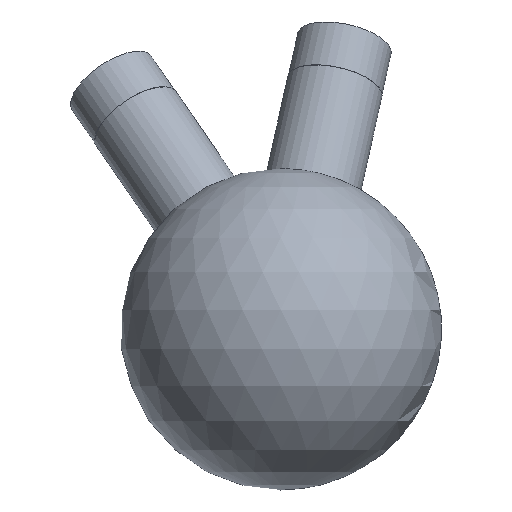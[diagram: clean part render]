
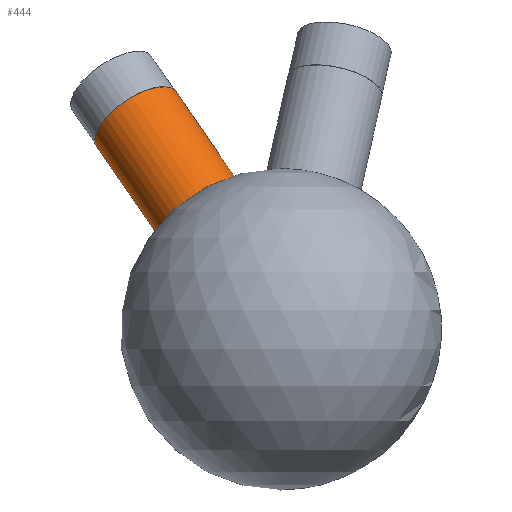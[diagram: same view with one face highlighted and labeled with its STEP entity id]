
A CAD part, front view. The second image highlights one B-rep face of the part: STEP entity #444.
In plain terms, the highlighted cylindrical face has radius 6 mm (diameter 12 mm), a full revolution.
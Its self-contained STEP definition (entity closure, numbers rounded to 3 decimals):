
#35 = SPHERICAL_SURFACE('',#36,20.);
#36 = AXIS2_PLACEMENT_3D('',#37,#38,#39);
#37 = CARTESIAN_POINT('',(0.,0.,0.));
#38 = DIRECTION('',(0.,0.,1.));
#39 = DIRECTION('',(1.,0.,-0.));
#237 = EDGE_CURVE('',#238,#238,#240,.T.);
#238 = VERTEX_POINT('',#239);
#239 = CARTESIAN_POINT('',(-4.779,8.316,17.55
    ));
#240 = SURFACE_CURVE('',#241,(#246,#322),.PCURVE_S1.);
#241 = CIRCLE('',#242,6.);
#242 = AXIS2_PLACEMENT_3D('',#243,#244,#245);
#243 = CARTESIAN_POINT('',(-9.725,8.316,
    14.152));
#244 = DIRECTION('',(-0.51,0.436,0.742));
#245 = DIRECTION('',(-0.824,0.,-0.566
    ));
#246 = PCURVE('',#35,#247);
#247 = DEFINITIONAL_REPRESENTATION('',(#248),#321);
#248 = B_SPLINE_CURVE_WITH_KNOTS('',8,(#249,#250,#251,#252,#253,#254,
    #255,#256,#257,#258,#259,#260,#261,#262,#263,#264,#265,#266,#267,
    #268,#269,#270,#271,#272,#273,#274,#275,#276,#277,#278,#279,#280,
    #281,#282,#283,#284,#285,#286,#287,#288,#289,#290,#291,#292,#293,
    #294,#295,#296,#297,#298,#299,#300,#301,#302,#303,#304,#305,#306,
    #307,#308,#309,#310,#311,#312,#313,#314,#315,#316,#317,#318,#319,
    #320),.UNSPECIFIED.,.T.,.F.,(9,7,7,7,7,7,7,7,7,7,9),(3.142,
    3.534,4.271,5.559,6.526,
    7.25,7.794,8.202,8.507,
    8.966,9.425),.UNSPECIFIED.);
#249 = CARTESIAN_POINT('',(2.092,1.071));
#250 = CARTESIAN_POINT('',(2.072,1.06));
#251 = CARTESIAN_POINT('',(2.054,1.048));
#252 = CARTESIAN_POINT('',(2.038,1.035));
#253 = CARTESIAN_POINT('',(2.024,1.023));
#254 = CARTESIAN_POINT('',(2.012,1.009));
#255 = CARTESIAN_POINT('',(2.002,0.996));
#256 = CARTESIAN_POINT('',(1.994,0.981));
#257 = CARTESIAN_POINT('',(1.975,0.941));
#258 = CARTESIAN_POINT('',(1.968,0.913));
#259 = CARTESIAN_POINT('',(1.966,0.885));
#260 = CARTESIAN_POINT('',(1.969,0.857));
#261 = CARTESIAN_POINT('',(1.976,0.83));
#262 = CARTESIAN_POINT('',(1.986,0.803));
#263 = CARTESIAN_POINT('',(1.999,0.777));
#264 = CARTESIAN_POINT('',(2.042,0.708));
#265 = CARTESIAN_POINT('',(2.077,0.667));
#266 = CARTESIAN_POINT('',(2.118,0.63));
#267 = CARTESIAN_POINT('',(2.165,0.598));
#268 = CARTESIAN_POINT('',(2.215,0.572));
#269 = CARTESIAN_POINT('',(2.268,0.553));
#270 = CARTESIAN_POINT('',(2.323,0.54));
#271 = CARTESIAN_POINT('',(2.421,0.529));
#272 = CARTESIAN_POINT('',(2.463,0.529));
#273 = CARTESIAN_POINT('',(2.505,0.532));
#274 = CARTESIAN_POINT('',(2.547,0.539));
#275 = CARTESIAN_POINT('',(2.588,0.55));
#276 = CARTESIAN_POINT('',(2.627,0.565));
#277 = CARTESIAN_POINT('',(2.665,0.583));
#278 = CARTESIAN_POINT('',(2.728,0.621));
#279 = CARTESIAN_POINT('',(2.753,0.639));
#280 = CARTESIAN_POINT('',(2.777,0.658));
#281 = CARTESIAN_POINT('',(2.799,0.679));
#282 = CARTESIAN_POINT('',(2.82,0.701));
#283 = CARTESIAN_POINT('',(2.838,0.725));
#284 = CARTESIAN_POINT('',(2.854,0.75));
#285 = CARTESIAN_POINT('',(2.877,0.794));
#286 = CARTESIAN_POINT('',(2.885,0.814));
#287 = CARTESIAN_POINT('',(2.892,0.834));
#288 = CARTESIAN_POINT('',(2.897,0.854));
#289 = CARTESIAN_POINT('',(2.899,0.875));
#290 = CARTESIAN_POINT('',(2.9,0.895));
#291 = CARTESIAN_POINT('',(2.898,0.915));
#292 = CARTESIAN_POINT('',(2.889,0.951));
#293 = CARTESIAN_POINT('',(2.883,0.966));
#294 = CARTESIAN_POINT('',(2.876,0.981));
#295 = CARTESIAN_POINT('',(2.867,0.995));
#296 = CARTESIAN_POINT('',(2.856,1.009));
#297 = CARTESIAN_POINT('',(2.843,1.023));
#298 = CARTESIAN_POINT('',(2.828,1.036));
#299 = CARTESIAN_POINT('',(2.798,1.058));
#300 = CARTESIAN_POINT('',(2.783,1.067));
#301 = CARTESIAN_POINT('',(2.768,1.076));
#302 = CARTESIAN_POINT('',(2.751,1.084));
#303 = CARTESIAN_POINT('',(2.732,1.092));
#304 = CARTESIAN_POINT('',(2.713,1.099));
#305 = CARTESIAN_POINT('',(2.692,1.106));
#306 = CARTESIAN_POINT('',(2.637,1.121));
#307 = CARTESIAN_POINT('',(2.601,1.128));
#308 = CARTESIAN_POINT('',(2.563,1.134));
#309 = CARTESIAN_POINT('',(2.523,1.139));
#310 = CARTESIAN_POINT('',(2.482,1.141));
#311 = CARTESIAN_POINT('',(2.44,1.142));
#312 = CARTESIAN_POINT('',(2.398,1.141));
#313 = CARTESIAN_POINT('',(2.318,1.135));
#314 = CARTESIAN_POINT('',(2.278,1.13));
#315 = CARTESIAN_POINT('',(2.241,1.124));
#316 = CARTESIAN_POINT('',(2.205,1.116));
#317 = CARTESIAN_POINT('',(2.173,1.106));
#318 = CARTESIAN_POINT('',(2.143,1.095));
#319 = CARTESIAN_POINT('',(2.116,1.084));
#320 = CARTESIAN_POINT('',(2.092,1.071));
#321 = ( GEOMETRIC_REPRESENTATION_CONTEXT(2) 
PARAMETRIC_REPRESENTATION_CONTEXT() REPRESENTATION_CONTEXT('2D SPACE',''
  ) );
#322 = PCURVE('',#323,#328);
#323 = CYLINDRICAL_SURFACE('',#324,6.);
#324 = AXIS2_PLACEMENT_3D('',#325,#326,#327);
#325 = CARTESIAN_POINT('',(0.,0.,0.));
#326 = DIRECTION('',(-0.51,0.436,0.742));
#327 = DIRECTION('',(0.824,0.,0.566));
#328 = DEFINITIONAL_REPRESENTATION('',(#329),#333);
#329 = LINE('',#330,#331);
#330 = CARTESIAN_POINT('',(-3.142,19.079));
#331 = VECTOR('',#332,1.);
#332 = DIRECTION('',(1.,0.));
#333 = ( GEOMETRIC_REPRESENTATION_CONTEXT(2) 
PARAMETRIC_REPRESENTATION_CONTEXT() REPRESENTATION_CONTEXT('2D SPACE',''
  ) );
#444 = ADVANCED_FACE('',(#445),#323,.T.);
#445 = FACE_BOUND('',#446,.T.);
#446 = EDGE_LOOP('',(#447,#470,#497,#498));
#447 = ORIENTED_EDGE('',*,*,#448,.T.);
#448 = EDGE_CURVE('',#238,#449,#451,.T.);
#449 = VERTEX_POINT('',#450);
#450 = CARTESIAN_POINT('',(-13.028,15.369,
    29.554));
#451 = SEAM_CURVE('',#452,(#456,#463),.PCURVE_S1.);
#452 = LINE('',#453,#454);
#453 = CARTESIAN_POINT('',(4.945,0.,
    3.398));
#454 = VECTOR('',#455,1.);
#455 = DIRECTION('',(-0.51,0.436,0.742));
#456 = PCURVE('',#323,#457);
#457 = DEFINITIONAL_REPRESENTATION('',(#458),#462);
#458 = LINE('',#459,#460);
#459 = CARTESIAN_POINT('',(6.283,-0.));
#460 = VECTOR('',#461,1.);
#461 = DIRECTION('',(0.,1.));
#462 = ( GEOMETRIC_REPRESENTATION_CONTEXT(2) 
PARAMETRIC_REPRESENTATION_CONTEXT() REPRESENTATION_CONTEXT('2D SPACE',''
  ) );
#463 = PCURVE('',#323,#464);
#464 = DEFINITIONAL_REPRESENTATION('',(#465),#469);
#465 = LINE('',#466,#467);
#466 = CARTESIAN_POINT('',(0.,-0.));
#467 = VECTOR('',#468,1.);
#468 = DIRECTION('',(0.,1.));
#469 = ( GEOMETRIC_REPRESENTATION_CONTEXT(2) 
PARAMETRIC_REPRESENTATION_CONTEXT() REPRESENTATION_CONTEXT('2D SPACE',''
  ) );
#470 = ORIENTED_EDGE('',*,*,#471,.F.);
#471 = EDGE_CURVE('',#449,#449,#472,.T.);
#472 = SURFACE_CURVE('',#473,(#478,#485),.PCURVE_S1.);
#473 = CIRCLE('',#474,6.);
#474 = AXIS2_PLACEMENT_3D('',#475,#476,#477);
#475 = CARTESIAN_POINT('',(-17.973,15.369,
    26.156));
#476 = DIRECTION('',(-0.51,0.436,0.742));
#477 = DIRECTION('',(0.824,0.,0.566));
#478 = PCURVE('',#323,#479);
#479 = DEFINITIONAL_REPRESENTATION('',(#480),#484);
#480 = LINE('',#481,#482);
#481 = CARTESIAN_POINT('',(0.,35.262));
#482 = VECTOR('',#483,1.);
#483 = DIRECTION('',(1.,0.));
#484 = ( GEOMETRIC_REPRESENTATION_CONTEXT(2) 
PARAMETRIC_REPRESENTATION_CONTEXT() REPRESENTATION_CONTEXT('2D SPACE',''
  ) );
#485 = PCURVE('',#486,#491);
#486 = PLANE('',#487);
#487 = AXIS2_PLACEMENT_3D('',#488,#489,#490);
#488 = CARTESIAN_POINT('',(-17.973,15.369,
    26.156));
#489 = DIRECTION('',(-0.51,0.436,0.742));
#490 = DIRECTION('',(0.824,0.,0.566));
#491 = DEFINITIONAL_REPRESENTATION('',(#492),#496);
#492 = CIRCLE('',#493,6.);
#493 = AXIS2_PLACEMENT_2D('',#494,#495);
#494 = CARTESIAN_POINT('',(0.,0.));
#495 = DIRECTION('',(1.,0.));
#496 = ( GEOMETRIC_REPRESENTATION_CONTEXT(2) 
PARAMETRIC_REPRESENTATION_CONTEXT() REPRESENTATION_CONTEXT('2D SPACE',''
  ) );
#497 = ORIENTED_EDGE('',*,*,#448,.F.);
#498 = ORIENTED_EDGE('',*,*,#237,.T.);
